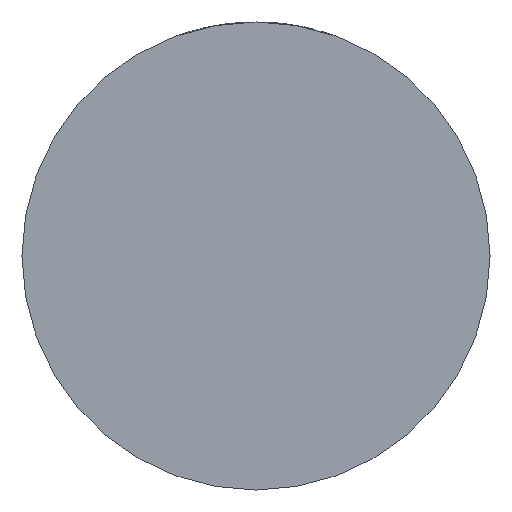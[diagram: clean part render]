
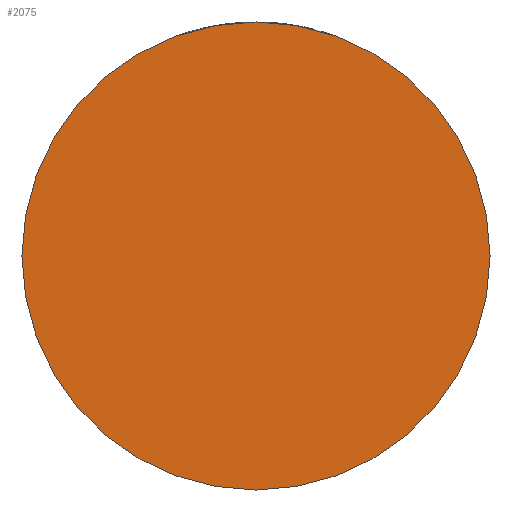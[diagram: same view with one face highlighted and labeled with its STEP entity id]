
A CAD part, front view. The second image highlights one B-rep face of the part: STEP entity #2075.
In plain terms, the highlighted planar face has unit normal (0, -1, 0).
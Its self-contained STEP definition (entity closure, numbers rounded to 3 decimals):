
#140 = DIRECTION ( 'NONE',  ( 0., -1., 0. ) ) ;
#380 = DIRECTION ( 'NONE',  ( 0., -1., 0. ) ) ;
#821 = PLANE ( 'NONE',  #2328 ) ;
#838 = EDGE_LOOP ( 'NONE', ( #4174, #4150 ) ) ;
#885 = EDGE_CURVE ( 'NONE', #4109, #3179, #2194, .T. ) ;
#1432 = CARTESIAN_POINT ( 'NONE',  ( 29.5, -25., 0. ) ) ;
#1471 = DIRECTION ( 'NONE',  ( 1., 0., 0. ) ) ;
#1515 = CARTESIAN_POINT ( 'NONE',  ( 0., -25., 0. ) ) ;
#1594 = CARTESIAN_POINT ( 'NONE',  ( -29.5, -25., 0. ) ) ;
#1715 = DIRECTION ( 'NONE',  ( 1., 0., 0. ) ) ;
#2075 = ADVANCED_FACE ( 'NONE', ( #3135 ), #821, .T. ) ;
#2177 = DIRECTION ( 'NONE',  ( 1., 0., 0. ) ) ;
#2194 = CIRCLE ( 'NONE', #4378, 29.5 ) ;
#2328 = AXIS2_PLACEMENT_3D ( 'NONE', #1515, #2469, #2177 ) ;
#2404 = CARTESIAN_POINT ( 'NONE',  ( 0., -25., 0. ) ) ;
#2442 = EDGE_CURVE ( 'NONE', #3179, #4109, #2550, .T. ) ;
#2469 = DIRECTION ( 'NONE',  ( 0., -1., 0. ) ) ;
#2550 = CIRCLE ( 'NONE', #3032, 29.5 ) ;
#3032 = AXIS2_PLACEMENT_3D ( 'NONE', #3254, #140, #1471 ) ;
#3135 = FACE_OUTER_BOUND ( 'NONE', #838, .T. ) ;
#3179 = VERTEX_POINT ( 'NONE', #1432 ) ;
#3254 = CARTESIAN_POINT ( 'NONE',  ( 0., -25., 0. ) ) ;
#4109 = VERTEX_POINT ( 'NONE', #1594 ) ;
#4150 = ORIENTED_EDGE ( 'NONE', *, *, #2442, .T. ) ;
#4174 = ORIENTED_EDGE ( 'NONE', *, *, #885, .T. ) ;
#4378 = AXIS2_PLACEMENT_3D ( 'NONE', #2404, #380, #1715 ) ;
